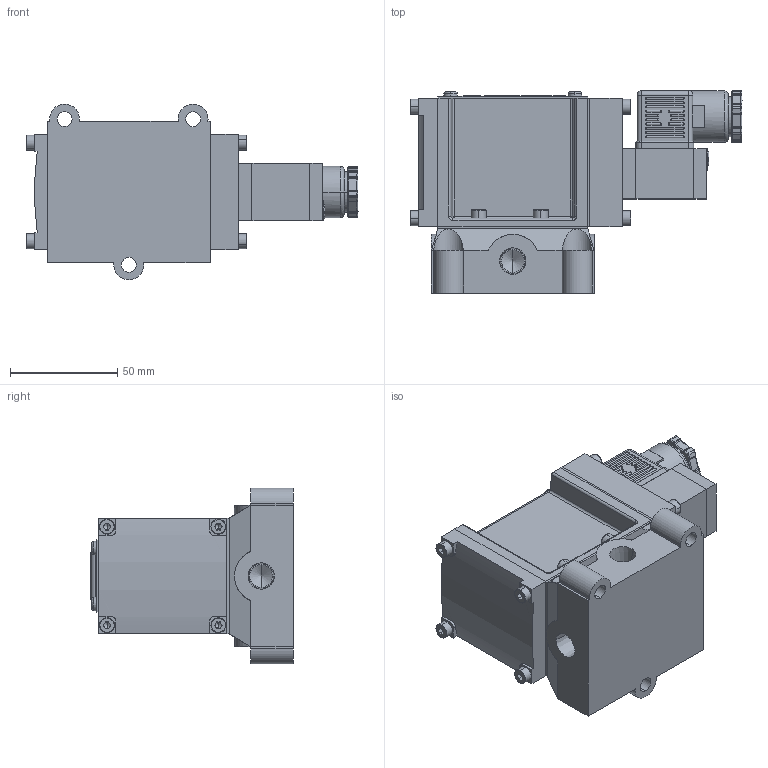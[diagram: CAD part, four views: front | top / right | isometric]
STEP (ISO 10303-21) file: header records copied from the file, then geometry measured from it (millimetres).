
FILE_DESCRIPTION (( 'STEP AP203' ), '1' );
FILE_NAME ('PMS2408#-02-#C#.STEP', '2016-03-09T08:32:12', ( 'Sam Lin' ), ( '' ), 'SwSTEP 2.0', 'SolidWorks 2013', '' );
FILE_SCHEMA (( 'CONFIG_CONTROL_DESIGN' ));
Length unit declared in the file: metre
Products named in the file (17): PMS2408-3; PMS2408#-02-#C#; PM06-C4_1; PMS2408-1; PMS2408-2; PMS2408-8; PM06-C6-M3_1; PMS2408-7; PM06-C1_1; PMS2408-4; PMS2408-6; ISO 4762 M4 x 10; PM06-C3-M4_1; PM06-C5_1; PMS2306-6(C); PM08-MARK-2408; PMS2408-5
Assembly tree (29 placements, depth 2):
  PMS2408#-02-#C#
    PMS2408-1
    PMS2408-2
    PMS2408-3
    PMS2408-4
    PMS2408-5
    PMS2408-6
    PMS2408-7
    PMS2408-8
    PM08-MARK-2408
    PM06-C3-M4_1  x3
    ISO 4762 M4 x 10  x11
    PM06-C1_1
    PM06-C4_1
    PM06-C6-M3_1  x2
    PM06-C5_1
    PMS2306-6(C)
Bounding box: 155 x 94.64 x 82 mm (x, y, z)
Volume: 438206.4 mm3; surface area: 106535.1 mm2
Topology: 35 solids, 35 shells, 1126 faces, 2768 edges, 1612 vertices
Faces by surface type: plane 484, cylinder 301, bspline 234, cone 107
Entity records: 31274 total; most frequent: CARTESIAN_POINT 12525, ORIENTED_EDGE 3536, DIRECTION 3297, EDGE_CURVE 1768, AXIS2_PLACEMENT_3D 1212, VERTEX_POINT 1109, LINE 873, VECTOR 873
